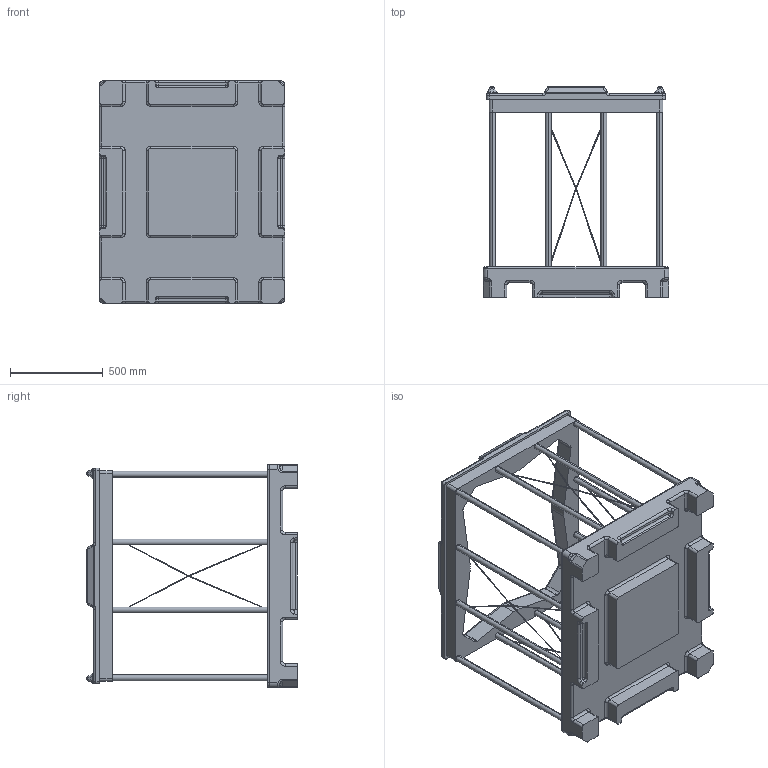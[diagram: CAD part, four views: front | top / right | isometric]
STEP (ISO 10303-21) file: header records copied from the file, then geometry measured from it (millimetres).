
FILE_DESCRIPTION (( 'STEP AP214' ), '1' );
FILE_NAME ('Alpal 40 Block Model.STEP', '2013-06-03T15:20:48', ( 'Bryant Conder' ), ( '' ), 'SwSTEP 2.0', 'SolidWorks 2013', '' );
FILE_SCHEMA (( 'AUTOMOTIVE_DESIGN' ));
Length unit declared in the file: inch
Products named in the file (1): Alpal 40 Block Model
Bounding box: 1000.12 x 1136.15 x 1200.15 mm (x, y, z)
Volume: 114189802.2 mm3; surface area: 6283714.8 mm2
Topology: 1 solids, 1 shells, 488 faces, 1233 edges, 707 vertices
Faces by surface type: cylinder 257, plane 102, torus 57, bspline 44, sphere 28
Entity records: 16769 total; most frequent: CARTESIAN_POINT 5545, ORIENTED_EDGE 2394, DIRECTION 2383, EDGE_CURVE 1197, AXIS2_PLACEMENT_3D 921, VERTEX_POINT 699, VECTOR 541, LINE 541
